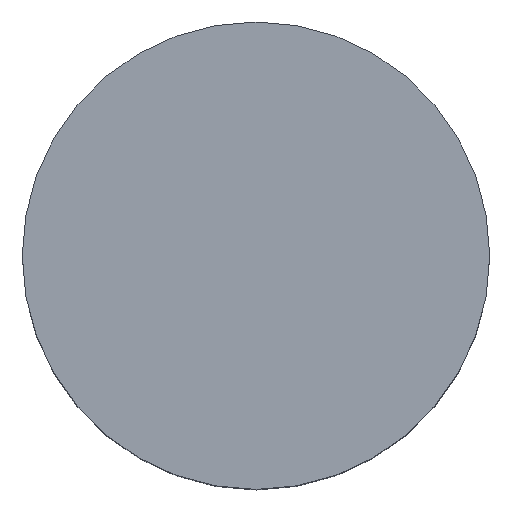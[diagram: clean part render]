
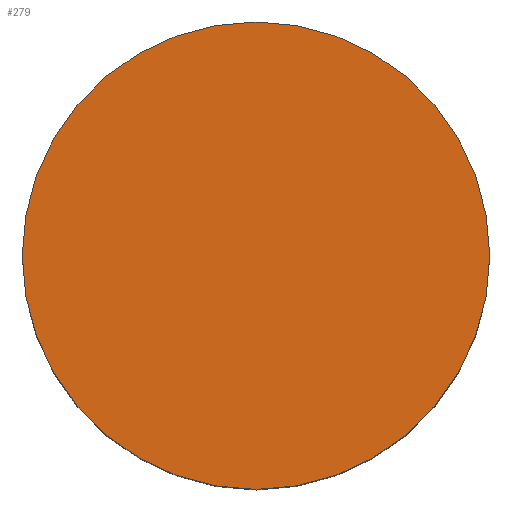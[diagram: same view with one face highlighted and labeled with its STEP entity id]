
A CAD part, top view. The second image highlights one B-rep face of the part: STEP entity #279.
In plain terms, the highlighted planar face has unit normal (0, 0, 1).
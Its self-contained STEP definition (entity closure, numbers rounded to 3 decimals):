
#46=PLANE('',#329);
#69=FACE_OUTER_BOUND('',#113,.T.);
#113=EDGE_LOOP('',(#240));
#138=CIRCLE('',#328,20.25);
#166=VERTEX_POINT('',#502);
#192=EDGE_CURVE('',#166,#166,#138,.T.);
#240=ORIENTED_EDGE('',*,*,#192,.T.);
#279=ADVANCED_FACE('',(#69),#46,.T.);
#328=AXIS2_PLACEMENT_3D('',#503,#425,#426);
#329=AXIS2_PLACEMENT_3D('',#504,#427,#428);
#425=DIRECTION('center_axis',(0.,0.,1.));
#426=DIRECTION('ref_axis',(-1.,0.,0.));
#427=DIRECTION('center_axis',(0.,0.,1.));
#428=DIRECTION('ref_axis',(1.,0.,0.));
#502=CARTESIAN_POINT('',(20.25,0.,31.5));
#503=CARTESIAN_POINT('Origin',(0.,0.,31.5));
#504=CARTESIAN_POINT('Origin',(0.,0.,
31.5));
